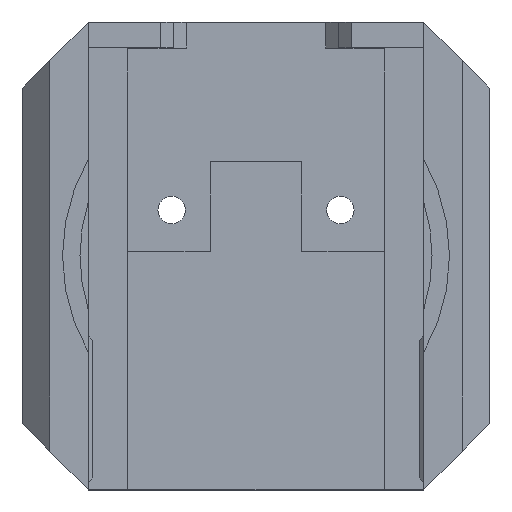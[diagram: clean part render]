
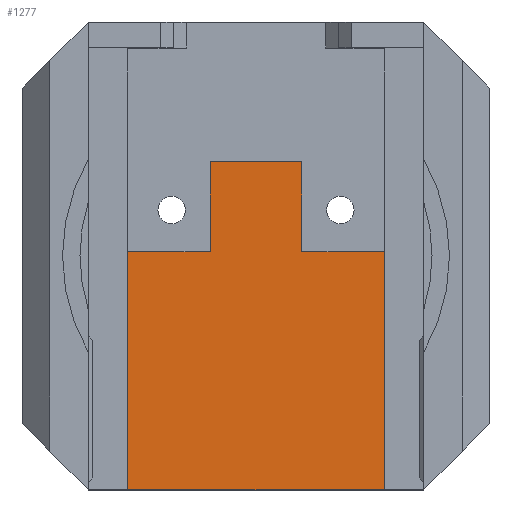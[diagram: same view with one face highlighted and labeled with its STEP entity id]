
A CAD part, top view. The second image highlights one B-rep face of the part: STEP entity #1277.
In plain terms, the highlighted planar face has unit normal (0, 0, 1).
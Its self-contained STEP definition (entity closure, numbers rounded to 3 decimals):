
#105=FACE_OUTER_BOUND('',#179,.T.);
#179=EDGE_LOOP('',(#1139,#1140,#1141,#1142,#1143,#1144,#1145,#1146));
#254=LINE('',#1837,#418);
#329=LINE('',#2006,#493);
#335=LINE('',#2021,#499);
#337=LINE('',#2025,#501);
#339=LINE('',#2029,#503);
#341=LINE('',#2032,#505);
#343=LINE('',#2036,#507);
#344=LINE('',#2038,#508);
#418=VECTOR('',#1474,10.);
#493=VECTOR('',#1641,10.);
#499=VECTOR('',#1659,10.);
#501=VECTOR('',#1663,10.);
#503=VECTOR('',#1667,10.);
#505=VECTOR('',#1671,10.);
#507=VECTOR('',#1675,10.);
#508=VECTOR('',#1678,10.);
#569=VERTEX_POINT('',#1834);
#570=VERTEX_POINT('',#1836);
#618=VERTEX_POINT('',#2004);
#620=VERTEX_POINT('',#2018);
#621=VERTEX_POINT('',#2020);
#622=VERTEX_POINT('',#2024);
#623=VERTEX_POINT('',#2028);
#624=VERTEX_POINT('',#2034);
#701=EDGE_CURVE('',#570,#569,#254,.T.);
#785=EDGE_CURVE('',#618,#569,#329,.T.);
#791=EDGE_CURVE('',#621,#620,#335,.T.);
#793=EDGE_CURVE('',#622,#621,#337,.T.);
#795=EDGE_CURVE('',#623,#622,#339,.T.);
#797=EDGE_CURVE('',#618,#623,#341,.T.);
#799=EDGE_CURVE('',#620,#624,#343,.T.);
#800=EDGE_CURVE('',#570,#624,#344,.T.);
#1139=ORIENTED_EDGE('',*,*,#799,.T.);
#1140=ORIENTED_EDGE('',*,*,#800,.F.);
#1141=ORIENTED_EDGE('',*,*,#701,.T.);
#1142=ORIENTED_EDGE('',*,*,#785,.F.);
#1143=ORIENTED_EDGE('',*,*,#797,.T.);
#1144=ORIENTED_EDGE('',*,*,#795,.T.);
#1145=ORIENTED_EDGE('',*,*,#793,.T.);
#1146=ORIENTED_EDGE('',*,*,#791,.T.);
#1211=PLANE('',#1357);
#1277=ADVANCED_FACE('',(#105),#1211,.T.);
#1357=AXIS2_PLACEMENT_3D('',#2037,#1676,#1677);
#1474=DIRECTION('',(1.,0.,0.));
#1641=DIRECTION('',(0.,-1.,0.));
#1659=DIRECTION('',(0.,-1.,0.));
#1663=DIRECTION('',(-1.,0.,0.));
#1667=DIRECTION('',(0.,1.,0.));
#1671=DIRECTION('',(-1.,0.,0.));
#1675=DIRECTION('',(-1.,0.,0.));
#1676=DIRECTION('center_axis',(0.,0.,1.));
#1677=DIRECTION('ref_axis',(1.,0.,0.));
#1678=DIRECTION('',(0.,1.,0.));
#1834=CARTESIAN_POINT('',(19.75,0.,2.5));
#1836=CARTESIAN_POINT('',(5.75,0.,2.5));
#1837=CARTESIAN_POINT('',(5.75,0.,2.5));
#2004=CARTESIAN_POINT('',(19.75,13.,2.5));
#2006=CARTESIAN_POINT('',(19.75,16.,2.5));
#2018=CARTESIAN_POINT('',(10.25,13.,2.5));
#2020=CARTESIAN_POINT('',(10.25,17.9,2.5));
#2021=CARTESIAN_POINT('',(10.25,13.,2.5));
#2024=CARTESIAN_POINT('',(15.25,17.9,2.5));
#2025=CARTESIAN_POINT('',(15.25,17.9,2.5));
#2028=CARTESIAN_POINT('',(15.25,13.,2.5));
#2029=CARTESIAN_POINT('',(15.25,17.9,2.5));
#2032=CARTESIAN_POINT('',(19.75,13.,2.5));
#2034=CARTESIAN_POINT('',(5.75,13.,2.5));
#2036=CARTESIAN_POINT('',(19.75,13.,2.5));
#2037=CARTESIAN_POINT('Origin',(12.75,6.5,2.5));
#2038=CARTESIAN_POINT('',(5.75,3.25,2.5));
